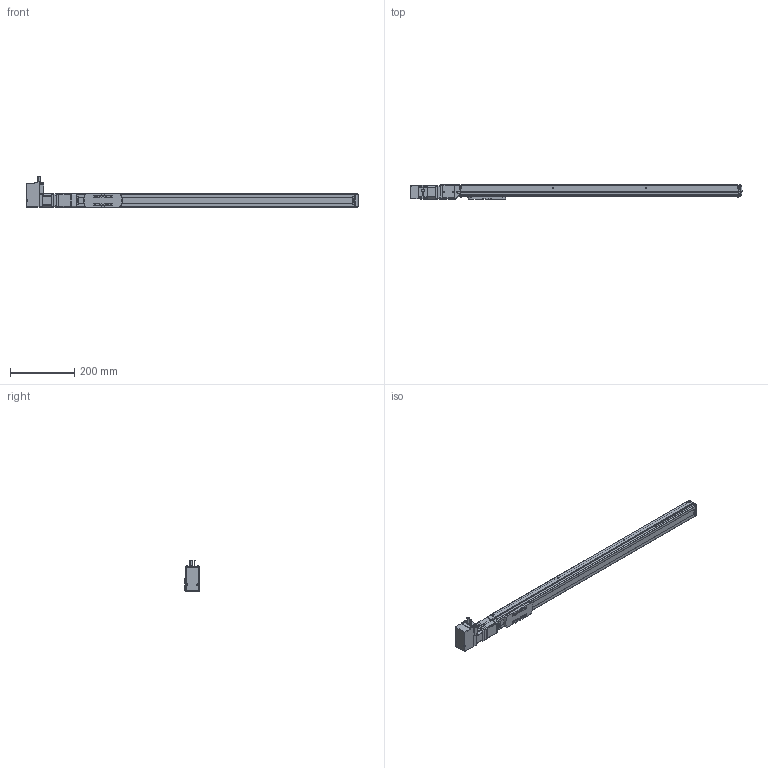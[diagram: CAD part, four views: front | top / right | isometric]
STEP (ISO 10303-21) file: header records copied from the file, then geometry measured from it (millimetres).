
FILE_DESCRIPTION(('FreeCAD Model'),'2;1');
FILE_NAME('Open CASCADE Shape Model','2023-08-01T18:16:11',('Author'),( ''),'Open CASCADE STEP processor 7.5','FreeCAD','Unknown');
FILE_SCHEMA(('AUTOMOTIVE_DESIGN { 1 0 10303 214 1 1 1 1 }'));
Length unit declared in the file: millimetre
Products named in the file (20): RCB0411; Shapes; Shapes001; Shapes002; Shapes003; Shapes004; Shapes005; Shapes006; Shapes007; Shapes008; Shapes009; Shapes010; Shapes011; Shapes012; Shapes013; KSF4-10-0700-0-AR(0); KSF4---(Cover); KSF4-AR---(Motor bracket); KSF4-10-0700---(slider); KSF4-10-0700-0-AR-(07000ARNo0)---(body)
Assembly tree (19 placements, depth 3):
  RCB0411
    Shapes
    Shapes001
    Shapes002
    Shapes003
    Shapes004
    Shapes005
    Shapes006
    Shapes007
    Shapes008
    Shapes009
    Shapes010
    Shapes011
    Shapes012
    Shapes013
    KSF4-10-0700-0-AR(0)
      KSF4---(Cover)
      KSF4-AR---(Motor bracket)
      KSF4-10-0700---(slider)
      KSF4-10-0700-0-AR-(07000ARNo0)---(body)
Bounding box: 1032 x 46 x 98.19 mm (x, y, z)
Volume: 1635459.6 mm3; surface area: 305688.8 mm2
Topology: 18 solids, 18 shells, 1301 faces, 3354 edges, 2188 vertices
Faces by surface type: plane 719, cylinder 432, cone 68, torus 53, bspline 19, revolution 6, sphere 4
Full cylindrical faces by diameter (mm): 2.113 x8, 2.459 x3, 3 x6, 3.242 x4, 3.4 x18, 4 x3, 4.5 x2, 5.5 x8, 6 x1, 6.5 x20, 8 x1, 12 x1, 22 x1, 28 x1, 30 x2
Entity records: 94882 total; most frequent: CARTESIAN_POINT 27154, DIRECTION 12729, LINE 7559, VECTOR 7559, ORIENTED_EDGE 6672, PCURVE 6672, DEFINITIONAL_REPRESENTATION 6672, EDGE_CURVE 3336
